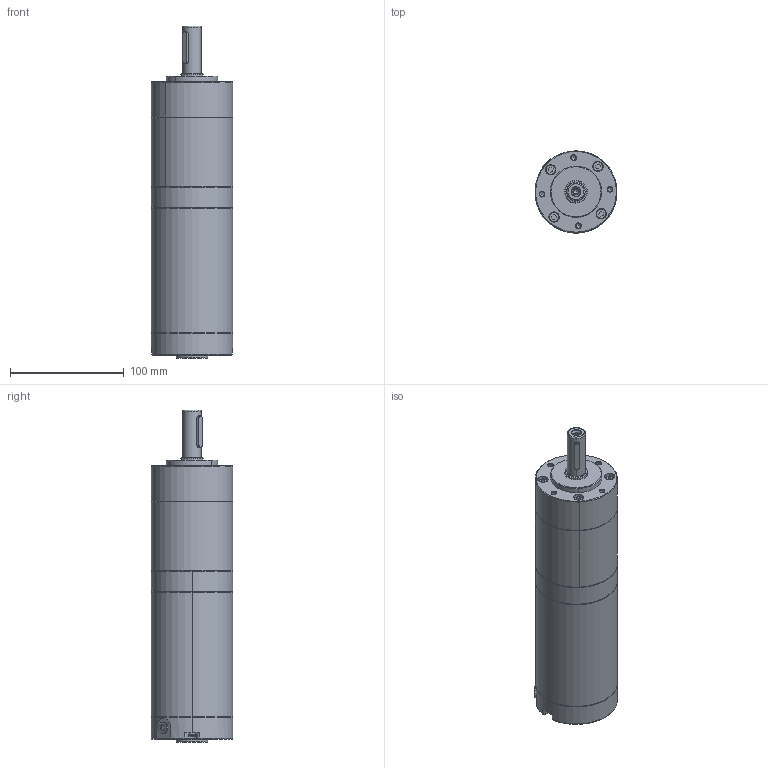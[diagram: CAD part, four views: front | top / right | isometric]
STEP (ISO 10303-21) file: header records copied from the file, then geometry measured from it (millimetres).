
FILE_DESCRIPTION (( 'STEP AP203' ), '1' );
FILE_NAME ('72ZPN有刷三级减速.STEP', '2021-07-17T08:20:15', ( '' ), ( '' ), 'SwSTEP 2.0', 'SolidWorks 2021', '' );
FILE_SCHEMA (( 'CONFIG_CONTROL_DESIGN' ));
Length unit declared in the file: millimetre
Products named in the file (3): 72ZPN有刷三级减速; 72PN三级; 72ZPN衄芃珨撰熬厒
Assembly tree (2 placements, depth 2):
  72ZPN有刷三级减速
    72ZPN衄芃珨撰熬厒
    72PN三级
Bounding box: 72 x 72 x 291.8 mm (x, y, z)
Volume: 983784.5 mm3; surface area: 77355.2 mm2
Topology: 2 solids, 2 shells, 244 faces, 557 edges, 339 vertices
Faces by surface type: plane 89, cylinder 79, cone 40, torus 22, bspline 14
Entity records: 7521 total; most frequent: CARTESIAN_POINT 1686, DIRECTION 1236, ORIENTED_EDGE 1094, EDGE_CURVE 547, AXIS2_PLACEMENT_3D 475, VERTEX_POINT 339, LINE 286, VECTOR 286
